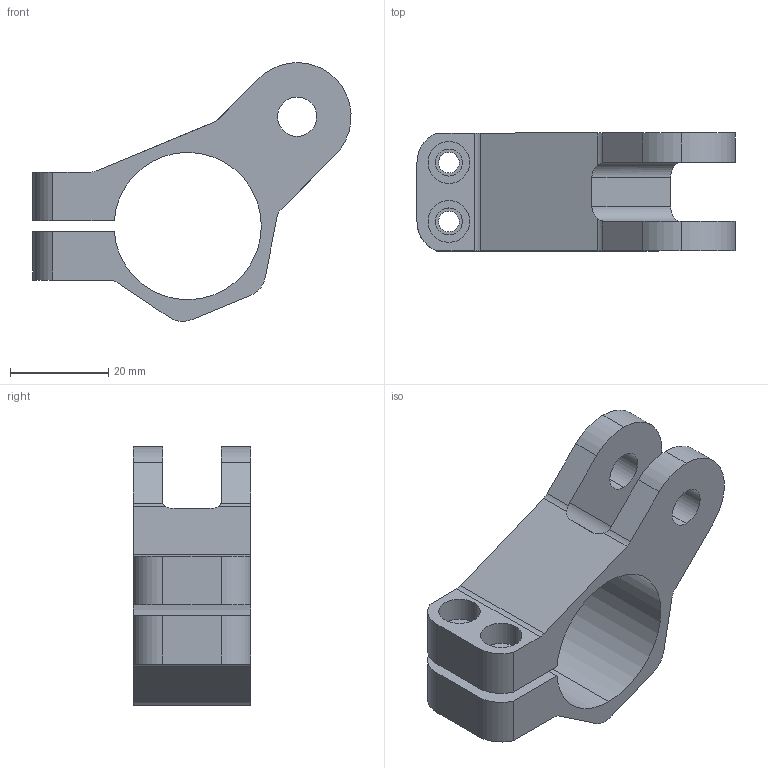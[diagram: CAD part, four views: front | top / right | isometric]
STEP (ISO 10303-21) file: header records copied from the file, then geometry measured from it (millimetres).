
FILE_DESCRIPTION (( 'STEP AP203' ), '1' );
FILE_NAME ('Bride.STEP', '2016-09-13T09:37:11', ( 'greg' ), ( '' ), 'SwSTEP 2.0', 'SolidWorks 2015', '' );
FILE_SCHEMA (( 'CONFIG_CONTROL_DESIGN' ));
Length unit declared in the file: millimetre
Products named in the file (1): Bride
Bounding box: 64.76 x 24 x 52.68 mm (x, y, z)
Volume: 19465.3 mm3; surface area: 10770 mm2
Topology: 1 solids, 1 shells, 56 faces, 156 edges, 104 vertices
Faces by surface type: cylinder 36, plane 20
Entity records: 1937 total; most frequent: DIRECTION 336, CARTESIAN_POINT 333, ORIENTED_EDGE 312, EDGE_CURVE 156, AXIS2_PLACEMENT_3D 127, VERTEX_POINT 104, LINE 82, VECTOR 82
